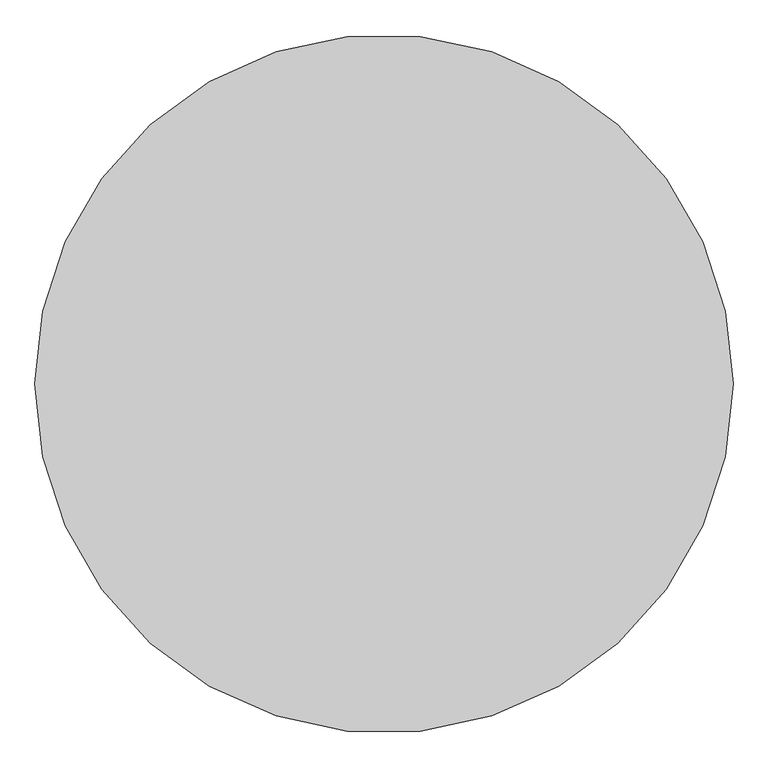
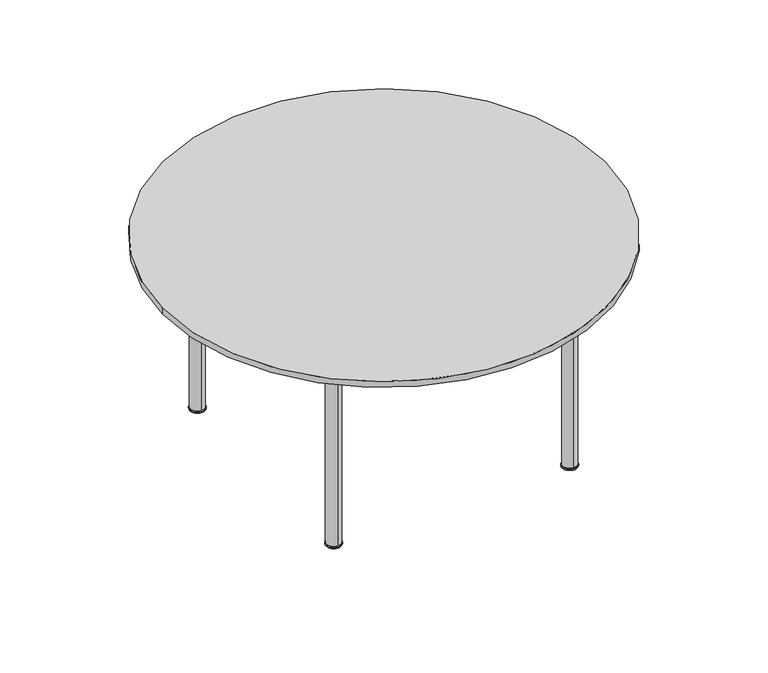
"""IFC4 building model written with IfcOpenShell, lengths in millimetres: furniture geometry, Fredericia - Plan Table - 6645 : Fredericia - Plan Table - 6645."""

from ifc_helpers import new_model, si_unit, point, frame, frame_2d, origin, origin_2d, place, context, project, spatial, polyline, circle_curve, ellipse_curve, trimmed, segment, composite_curve, outline, extrude, source, transform, mapped, element, save
from ifc_brep_helpers import plane_surface, cylinder_surface, revolved_surface, advanced_brep


def furniture_2b8ee67a(model_context):
    return source(origin(), model_context, "Body", "SolidModel", [
        advanced_brep(
        [(399.9965931, -397.0446057, 7.0064935), (399.9965931, -373.1194117, 7.0064935), (399.9965931, -420.9697997, 7.0064935), (399.9965931, -420.4697997, 0.0), (399.9965931, -373.6194117, 0.0), (399.9965931, -397.0446057, 0.0), (399.9965931, -423.4697997, 3.0), (399.9965931, -370.6194117, 3.0), (399.9965931, -423.4697997, 4.5064935), (399.9965931, -370.6194117, 4.5064935)],
        [
            (0, 1),
            (1, 2, circle_curve(frame((399.9965931, -397.0446057, 7.0064935), z_axis=(0.0, 0.0, 1.0), x_axis=(0.0, 1.0, 0.0)), 23.925194)),
            (2, 0),
            (2, 1, circle_curve(frame((399.9965931, -397.0446057, 7.0064935), z_axis=(0.0, 0.0, 1.0), x_axis=(0.0, 1.0, 0.0)), 23.925194)),
            (3, 4, circle_curve(frame((399.9965931, -397.0446057, 0.0), z_axis=(0.0, 0.0, -1.0), x_axis=(0.0, 1.0, 0.0)), 23.425194)),
            (4, 5),
            (5, 3),
            (4, 3, circle_curve(frame((399.9965931, -397.0446057, 0.0), z_axis=(0.0, 0.0, -1.0), x_axis=(0.0, 1.0, 0.0)), 23.425194)),
            (6, 7, circle_curve(frame((399.9965931, -397.0446057, 3.0), z_axis=(0.0, 0.0, -1.0), x_axis=(0.0, 1.0, 0.0)), 26.425194)),
            (7, 4, circle_curve(frame((399.9965931, -373.6194117, 3.0), z_axis=(-1.0, 0.0, 0.0), x_axis=(0.0, 1.0, 0.0)), 3.0)),
            (3, 6, circle_curve(frame((399.9965931, -420.4697997, 3.0), z_axis=(-1.0, 0.0, 0.0), x_axis=(0.0, -1.0, 0.0)), 3.0)),
            (7, 6, circle_curve(frame((399.9965931, -397.0446057, 3.0), z_axis=(0.0, 0.0, -1.0), x_axis=(0.0, 1.0, 0.0)), 26.425194)),
            (8, 9, circle_curve(frame((399.9965931, -397.0446057, 4.5064935), z_axis=(0.0, 0.0, -1.0), x_axis=(0.0, 1.0, 0.0)), 26.425194)),
            (9, 7),
            (6, 8),
            (9, 8, circle_curve(frame((399.9965931, -397.0446057, 4.5064935), z_axis=(0.0, 0.0, -1.0), x_axis=(0.0, 1.0, 0.0)), 26.425194)),
            (1, 9, circle_curve(frame((399.9965931, -373.1194117, 4.5064935), z_axis=(-1.0, 0.0, 0.0), x_axis=(0.0, 1.0, 0.0)), 2.5)),
            (8, 2, circle_curve(frame((399.9965931, -420.9697997, 4.5064935), z_axis=(-1.0, 0.0, 0.0), x_axis=(0.0, -1.0, 0.0)), 2.5)),
        ],
        [
            plane_surface(frame((399.9965931, -397.0446057, 7.0064935), z_axis=(0.0, 0.0, 1.0), x_axis=(0.0, 1.0, 0.0))),
            plane_surface(frame((399.9965931, -397.0446057, 0.0), z_axis=(0.0, 0.0, -1.0), x_axis=(0.0, 1.0, 0.0))),
            revolved_surface(trimmed(ellipse_curve(frame((399.9965931, -373.6194117, 3.0), z_axis=(1.0, 0.0, 0.0), x_axis=(0.0, 1.0, 0.0)), 3.0, 3.0), [point((399.9965931, -373.6194117, 0.0))], [point((399.9965931, -370.6194117, 3.0))], True, "CARTESIAN"), (399.9965931, -397.0446057, 7.0064935), (0.0, 0.0, 1.0)),
            cylinder_surface(frame((399.9965931, -397.0446057, 7.0064935), z_axis=(0.0, 0.0, 1.0), x_axis=(0.0, 1.0, 0.0)), 26.425194),
            revolved_surface(trimmed(ellipse_curve(frame((399.9965931, -373.1194117, 4.5064935), z_axis=(1.0, 0.0, 0.0), x_axis=(0.0, 1.0, 0.0)), 2.5, 2.5), [point((399.9965931, -370.6194117, 4.5064935))], [point((399.9965931, -373.1194117, 7.0064935))], True, "CARTESIAN"), (399.9965931, -397.0446057, 7.0064935), (0.0, 0.0, 1.0)),
        ],
        [
            (0, [[1, 2, 3]]),
            (0, [[-3, 4, -1]]),
            (1, [[5, 6, 7]]),
            (1, [[8, -7, -6]]),
            (2, [[9, 10, -5, 11]]),
            (2, [[12, -11, -8, -10]]),
            (3, [[13, 14, -9, 15]]),
            (3, [[16, -15, -12, -14]]),
            (4, [[-2, 17, -13, 18]]),
            (4, [[-4, -18, -16, -17]]),
        ],
    ),
        extrude(outline(composite_curve([segment(trimmed(circle_curve(frame_2d((400.0, -397.0446057)), 24.0), [point((400.0, -421.0446057))], [point((400.0, -373.0446057))], False, "CARTESIAN"), True, "CONTINUOUS"), segment(trimmed(circle_curve(frame_2d((400.0, -397.0446057)), 24.0), [point((400.0, -373.0446057))], [point((400.0, -421.0446057))], False, "CARTESIAN"), True, "CONTINUOUS")], self_intersect=False)), frame((0.0, 0.0, 7.0064935), z_axis=(0.0, 0.0, 1.0), x_axis=(1.0, 0.0, 0.0)), (0.0, 0.0, 1.0), 697.2),
        advanced_brep(
        [(-400.0, -420.9697997, 7.0064935), (-400.0, -373.1194117, 7.0064935), (-400.0, -397.0446057, 7.0064935), (-400.0, -397.0446057, 0.0), (-400.0, -373.6194117, 0.0), (-400.0, -420.4697997, 0.0), (-400.0, -370.6194117, 3.0), (-400.0, -423.4697997, 3.0), (-400.0, -370.6194117, 4.5064935), (-400.0, -423.4697997, 4.5064935)],
        [
            (0, 1, circle_curve(frame((-400.0, -397.0446057, 7.0064935), z_axis=(0.0, 0.0, 1.0), x_axis=(0.0, 1.0, 0.0)), 23.925194)),
            (1, 2),
            (2, 0),
            (1, 0, circle_curve(frame((-400.0, -397.0446057, 7.0064935), z_axis=(0.0, 0.0, 1.0), x_axis=(0.0, 1.0, 0.0)), 23.925194)),
            (3, 4),
            (4, 5, circle_curve(frame((-400.0, -397.0446057, 0.0), z_axis=(0.0, 0.0, -1.0), x_axis=(0.0, 1.0, 0.0)), 23.425194)),
            (5, 3),
            (5, 4, circle_curve(frame((-400.0, -397.0446057, 0.0), z_axis=(0.0, 0.0, -1.0), x_axis=(0.0, 1.0, 0.0)), 23.425194)),
            (4, 6, circle_curve(frame((-400.0, -373.6194117, 3.0), z_axis=(1.0, 0.0, 0.0), x_axis=(0.0, 1.0, 0.0)), 3.0)),
            (6, 7, circle_curve(frame((-400.0, -397.0446057, 3.0), z_axis=(0.0, 0.0, -1.0), x_axis=(0.0, 1.0, 0.0)), 26.425194)),
            (7, 5, circle_curve(frame((-400.0, -420.4697997, 3.0), z_axis=(1.0, 0.0, 0.0), x_axis=(0.0, -1.0, 0.0)), 3.0)),
            (7, 6, circle_curve(frame((-400.0, -397.0446057, 3.0), z_axis=(0.0, 0.0, -1.0), x_axis=(0.0, 1.0, 0.0)), 26.425194)),
            (6, 8),
            (8, 9, circle_curve(frame((-400.0, -397.0446057, 4.5064935), z_axis=(0.0, 0.0, -1.0), x_axis=(0.0, 1.0, 0.0)), 26.425194)),
            (9, 7),
            (9, 8, circle_curve(frame((-400.0, -397.0446057, 4.5064935), z_axis=(0.0, 0.0, -1.0), x_axis=(0.0, 1.0, 0.0)), 26.425194)),
            (8, 1, circle_curve(frame((-400.0, -373.1194117, 4.5064935), z_axis=(1.0, 0.0, 0.0), x_axis=(0.0, 1.0, 0.0)), 2.5)),
            (0, 9, circle_curve(frame((-400.0, -420.9697997, 4.5064935), z_axis=(1.0, 0.0, 0.0), x_axis=(0.0, -1.0, 0.0)), 2.5)),
        ],
        [
            plane_surface(frame((-400.0, -397.0446057, 7.0064935), z_axis=(0.0, 0.0, 1.0), x_axis=(0.0, 1.0, 0.0))),
            plane_surface(frame((-400.0, -397.0446057, 0.0), z_axis=(0.0, 0.0, -1.0), x_axis=(0.0, 1.0, 0.0))),
            revolved_surface(trimmed(ellipse_curve(frame((-400.0, -373.6194117, 3.0), z_axis=(-1.0, 0.0, 0.0), x_axis=(0.0, 1.0, 0.0)), 3.0, 3.0), [point((-400.0, -370.6194117, 3.0))], [point((-400.0, -373.6194117, 0.0))], True, "CARTESIAN"), (-400.0, -397.0446057, 7.0064935), (0.0, 0.0, -1.0)),
            cylinder_surface(frame((-400.0, -397.0446057, 7.0064935), z_axis=(0.0, 0.0, -1.0), x_axis=(0.0, 1.0, 0.0)), 26.425194),
            revolved_surface(trimmed(ellipse_curve(frame((-400.0, -373.1194117, 4.5064935), z_axis=(-1.0, 0.0, 0.0), x_axis=(0.0, 1.0, 0.0)), 2.5, 2.5), [point((-400.0, -373.1194117, 7.0064935))], [point((-400.0, -370.6194117, 4.5064935))], True, "CARTESIAN"), (-400.0, -397.0446057, 7.0064935), (0.0, 0.0, -1.0)),
        ],
        [
            (0, [[1, 2, 3]]),
            (0, [[4, -3, -2]]),
            (1, [[5, 6, 7]]),
            (1, [[-7, 8, -5]]),
            (2, [[-6, 9, 10, 11]]),
            (2, [[-8, -11, 12, -9]]),
            (3, [[-10, 13, 14, 15]]),
            (3, [[-12, -15, 16, -13]]),
            (4, [[-14, 17, -1, 18]]),
            (4, [[-16, -18, -4, -17]]),
        ],
    ),
        extrude(outline(composite_curve([segment(trimmed(circle_curve(frame_2d((-400.0034069, -397.0446057)), 24.0), [point((-400.0034069, -421.0446057))], [point((-400.0034069, -373.0446057))], False, "CARTESIAN"), True, "CONTINUOUS"), segment(trimmed(circle_curve(frame_2d((-400.0034069, -397.0446057)), 24.0), [point((-400.0034069, -373.0446057))], [point((-400.0034069, -421.0446057))], False, "CARTESIAN"), True, "CONTINUOUS")], self_intersect=False)), frame((0.0, 0.0, 7.0064935), z_axis=(0.0, 0.0, 1.0), x_axis=(1.0, 0.0, 0.0)), (0.0, 0.0, 1.0), 697.2),
        extrude(outline(composite_curve([segment(polyline([(-384.5694626, 691.7064935), (-384.5694626, 664.4807411)]), True, "CONTINUOUS"), segment(trimmed(circle_curve(frame_2d((-397.0694626, 664.4807411)), 12.5), [point((-384.5694626, 664.4807411))], [point((-409.5694626, 664.4807411))], False, "CARTESIAN"), True, "CONTINUOUS"), segment(polyline([(-409.5694626, 664.4807411), (-409.5694626, 691.7064935)]), True, "CONTINUOUS"), segment(trimmed(circle_curve(frame_2d((-397.0694626, 691.7064935)), 12.5), [point((-409.5694626, 691.7064935))], [point((-384.5694626, 691.7064935))], False, "CARTESIAN"), True, "CONTINUOUS")], self_intersect=False)), frame((-382.5, 0.0, 0.0), z_axis=(1.0, 0.0, 0.0), x_axis=(0.0, 1.0, 0.0)), (0.0, 0.0, 1.0), 766.1194551),
        advanced_brep(
        [(399.9965931, 426.8805883, 7.0064935), (399.9965931, 379.0302003, 7.0064935), (399.9965931, 402.9553943, 7.0064935), (399.9965931, 402.9553943, 0.0), (399.9965931, 379.5302003, 0.0), (399.9965931, 426.3805883, 0.0), (399.9965931, 376.5302003, 3.0), (399.9965931, 429.3805883, 3.0), (399.9965931, 376.5302003, 4.5064935), (399.9965931, 429.3805883, 4.5064935)],
        [
            (0, 1, circle_curve(frame((399.9965931, 402.9553943, 7.0064935), z_axis=(0.0, 0.0, 1.0), x_axis=(0.0, -1.0, 0.0)), 23.925194)),
            (1, 2),
            (2, 0),
            (1, 0, circle_curve(frame((399.9965931, 402.9553943, 7.0064935), z_axis=(0.0, 0.0, 1.0), x_axis=(0.0, -1.0, 0.0)), 23.925194)),
            (3, 4),
            (4, 5, circle_curve(frame((399.9965931, 402.9553943, 0.0), z_axis=(0.0, 0.0, -1.0), x_axis=(0.0, -1.0, 0.0)), 23.425194)),
            (5, 3),
            (5, 4, circle_curve(frame((399.9965931, 402.9553943, 0.0), z_axis=(0.0, 0.0, -1.0), x_axis=(0.0, -1.0, 0.0)), 23.425194)),
            (4, 6, circle_curve(frame((399.9965931, 379.5302003, 3.0), z_axis=(-1.0, 0.0, 0.0), x_axis=(0.0, -1.0, 0.0)), 3.0)),
            (6, 7, circle_curve(frame((399.9965931, 402.9553943, 3.0), z_axis=(0.0, 0.0, -1.0), x_axis=(0.0, -1.0, 0.0)), 26.425194)),
            (7, 5, circle_curve(frame((399.9965931, 426.3805883, 3.0), z_axis=(-1.0, 0.0, 0.0), x_axis=(0.0, 1.0, 0.0)), 3.0)),
            (7, 6, circle_curve(frame((399.9965931, 402.9553943, 3.0), z_axis=(0.0, 0.0, -1.0), x_axis=(0.0, -1.0, 0.0)), 26.425194)),
            (6, 8),
            (8, 9, circle_curve(frame((399.9965931, 402.9553943, 4.5064935), z_axis=(0.0, 0.0, -1.0), x_axis=(0.0, -1.0, 0.0)), 26.425194)),
            (9, 7),
            (9, 8, circle_curve(frame((399.9965931, 402.9553943, 4.5064935), z_axis=(0.0, 0.0, -1.0), x_axis=(0.0, -1.0, 0.0)), 26.425194)),
            (8, 1, circle_curve(frame((399.9965931, 379.0302003, 4.5064935), z_axis=(-1.0, 0.0, 0.0), x_axis=(0.0, -1.0, 0.0)), 2.5)),
            (0, 9, circle_curve(frame((399.9965931, 426.8805883, 4.5064935), z_axis=(-1.0, 0.0, 0.0), x_axis=(0.0, 1.0, 0.0)), 2.5)),
        ],
        [
            plane_surface(frame((399.9965931, 402.9553943, 7.0064935), z_axis=(0.0, 0.0, 1.0), x_axis=(0.0, -1.0, 0.0))),
            plane_surface(frame((399.9965931, 402.9553943, 0.0), z_axis=(0.0, 0.0, -1.0), x_axis=(0.0, -1.0, 0.0))),
            revolved_surface(trimmed(ellipse_curve(frame((399.9965931, 379.5302003, 3.0), z_axis=(1.0, 0.0, 0.0), x_axis=(0.0, -1.0, 0.0)), 3.0, 3.0), [point((399.9965931, 376.5302003, 3.0))], [point((399.9965931, 379.5302003, 0.0))], True, "CARTESIAN"), (399.9965931, 402.9553943, 7.0064935), (0.0, 0.0, -1.0)),
            cylinder_surface(frame((399.9965931, 402.9553943, 7.0064935), z_axis=(0.0, 0.0, -1.0), x_axis=(0.0, -1.0, 0.0)), 26.425194),
            revolved_surface(trimmed(ellipse_curve(frame((399.9965931, 379.0302003, 4.5064935), z_axis=(1.0, 0.0, 0.0), x_axis=(0.0, -1.0, 0.0)), 2.5, 2.5), [point((399.9965931, 379.0302003, 7.0064935))], [point((399.9965931, 376.5302003, 4.5064935))], True, "CARTESIAN"), (399.9965931, 402.9553943, 7.0064935), (0.0, 0.0, -1.0)),
        ],
        [
            (0, [[1, 2, 3]]),
            (0, [[4, -3, -2]]),
            (1, [[5, 6, 7]]),
            (1, [[-7, 8, -5]]),
            (2, [[-6, 9, 10, 11]]),
            (2, [[-8, -11, 12, -9]]),
            (3, [[-10, 13, 14, 15]]),
            (3, [[-12, -15, 16, -13]]),
            (4, [[-14, 17, -1, 18]]),
            (4, [[-16, -18, -4, -17]]),
        ],
    ),
        extrude(outline(composite_curve([segment(trimmed(circle_curve(frame_2d((400.0, 402.9553943)), 24.0), [point((400.0, 426.9553943))], [point((400.0, 378.9553943))], False, "CARTESIAN"), True, "CONTINUOUS"), segment(trimmed(circle_curve(frame_2d((400.0, 402.9553943)), 24.0), [point((400.0, 378.9553943))], [point((400.0, 426.9553943))], False, "CARTESIAN"), True, "CONTINUOUS")], self_intersect=False)), frame((0.0, 0.0, 7.0064935), z_axis=(0.0, 0.0, 1.0), x_axis=(1.0, 0.0, 0.0)), (0.0, 0.0, 1.0), 697.2),
        advanced_brep(
        [(-400.0, 402.9553943, 7.0064935), (-400.0, 379.0302003, 7.0064935), (-400.0, 426.8805883, 7.0064935), (-400.0, 426.3805883, 0.0), (-400.0, 379.5302003, 0.0), (-400.0, 402.9553943, 0.0), (-400.0, 429.3805883, 3.0), (-400.0, 376.5302003, 3.0), (-400.0, 429.3805883, 4.5064935), (-400.0, 376.5302003, 4.5064935)],
        [
            (0, 1),
            (1, 2, circle_curve(frame((-400.0, 402.9553943, 7.0064935), z_axis=(0.0, 0.0, 1.0), x_axis=(0.0, -1.0, 0.0)), 23.925194)),
            (2, 0),
            (2, 1, circle_curve(frame((-400.0, 402.9553943, 7.0064935), z_axis=(0.0, 0.0, 1.0), x_axis=(0.0, -1.0, 0.0)), 23.925194)),
            (3, 4, circle_curve(frame((-400.0, 402.9553943, 0.0), z_axis=(0.0, 0.0, -1.0), x_axis=(0.0, -1.0, 0.0)), 23.425194)),
            (4, 5),
            (5, 3),
            (4, 3, circle_curve(frame((-400.0, 402.9553943, 0.0), z_axis=(0.0, 0.0, -1.0), x_axis=(0.0, -1.0, 0.0)), 23.425194)),
            (6, 7, circle_curve(frame((-400.0, 402.9553943, 3.0), z_axis=(0.0, 0.0, -1.0), x_axis=(0.0, -1.0, 0.0)), 26.425194)),
            (7, 4, circle_curve(frame((-400.0, 379.5302003, 3.0), z_axis=(1.0, 0.0, 0.0), x_axis=(0.0, -1.0, 0.0)), 3.0)),
            (3, 6, circle_curve(frame((-400.0, 426.3805883, 3.0), z_axis=(1.0, 0.0, 0.0), x_axis=(0.0, 1.0, 0.0)), 3.0)),
            (7, 6, circle_curve(frame((-400.0, 402.9553943, 3.0), z_axis=(0.0, 0.0, -1.0), x_axis=(0.0, -1.0, 0.0)), 26.425194)),
            (8, 9, circle_curve(frame((-400.0, 402.9553943, 4.5064935), z_axis=(0.0, 0.0, -1.0), x_axis=(0.0, -1.0, 0.0)), 26.425194)),
            (9, 7),
            (6, 8),
            (9, 8, circle_curve(frame((-400.0, 402.9553943, 4.5064935), z_axis=(0.0, 0.0, -1.0), x_axis=(0.0, -1.0, 0.0)), 26.425194)),
            (1, 9, circle_curve(frame((-400.0, 379.0302003, 4.5064935), z_axis=(1.0, 0.0, 0.0), x_axis=(0.0, -1.0, 0.0)), 2.5)),
            (8, 2, circle_curve(frame((-400.0, 426.8805883, 4.5064935), z_axis=(1.0, 0.0, 0.0), x_axis=(0.0, 1.0, 0.0)), 2.5)),
        ],
        [
            plane_surface(frame((-400.0, 402.9553943, 7.0064935), z_axis=(0.0, 0.0, 1.0), x_axis=(0.0, -1.0, 0.0))),
            plane_surface(frame((-400.0, 402.9553943, 0.0), z_axis=(0.0, 0.0, -1.0), x_axis=(0.0, -1.0, 0.0))),
            revolved_surface(trimmed(ellipse_curve(frame((-400.0, 379.5302003, 3.0), z_axis=(-1.0, 0.0, 0.0), x_axis=(0.0, -1.0, 0.0)), 3.0, 3.0), [point((-400.0, 379.5302003, 0.0))], [point((-400.0, 376.5302003, 3.0))], True, "CARTESIAN"), (-400.0, 402.9553943, 7.0064935), (0.0, 0.0, 1.0)),
            cylinder_surface(frame((-400.0, 402.9553943, 7.0064935), z_axis=(0.0, 0.0, 1.0), x_axis=(0.0, -1.0, 0.0)), 26.425194),
            revolved_surface(trimmed(ellipse_curve(frame((-400.0, 379.0302003, 4.5064935), z_axis=(-1.0, 0.0, 0.0), x_axis=(0.0, -1.0, 0.0)), 2.5, 2.5), [point((-400.0, 376.5302003, 4.5064935))], [point((-400.0, 379.0302003, 7.0064935))], True, "CARTESIAN"), (-400.0, 402.9553943, 7.0064935), (0.0, 0.0, 1.0)),
        ],
        [
            (0, [[1, 2, 3]]),
            (0, [[-3, 4, -1]]),
            (1, [[5, 6, 7]]),
            (1, [[8, -7, -6]]),
            (2, [[9, 10, -5, 11]]),
            (2, [[12, -11, -8, -10]]),
            (3, [[13, 14, -9, 15]]),
            (3, [[16, -15, -12, -14]]),
            (4, [[-2, 17, -13, 18]]),
            (4, [[-4, -18, -16, -17]]),
        ],
    ),
        extrude(outline(composite_curve([segment(trimmed(circle_curve(frame_2d((-400.0034069, 402.9553943)), 24.0), [point((-400.0034069, 426.9553943))], [point((-400.0034069, 378.9553943))], False, "CARTESIAN"), True, "CONTINUOUS"), segment(trimmed(circle_curve(frame_2d((-400.0034069, 402.9553943)), 24.0), [point((-400.0034069, 378.9553943))], [point((-400.0034069, 426.9553943))], False, "CARTESIAN"), True, "CONTINUOUS")], self_intersect=False)), frame((0.0, 0.0, 7.0064935), z_axis=(0.0, 0.0, 1.0), x_axis=(1.0, 0.0, 0.0)), (0.0, 0.0, 1.0), 697.2),
        extrude(outline(composite_curve([segment(trimmed(circle_curve(frame_2d((402.9802512, 691.7064935)), 12.5), [point((390.4802512, 691.7064935))], [point((415.4802512, 691.7064935))], False, "CARTESIAN"), True, "CONTINUOUS"), segment(polyline([(415.4802512, 691.7064935), (415.4802512, 664.4807411)]), True, "CONTINUOUS"), segment(trimmed(circle_curve(frame_2d((402.9802512, 664.4807411)), 12.5), [point((415.4802512, 664.4807411))], [point((390.4802512, 664.4807411))], False, "CARTESIAN"), True, "CONTINUOUS"), segment(polyline([(390.4802512, 664.4807411), (390.4802512, 691.7064935)]), True, "CONTINUOUS")], self_intersect=False)), frame((-382.5, 0.0, 0.0), z_axis=(1.0, 0.0, 0.0), x_axis=(0.0, 1.0, 0.0)), (0.0, 0.0, 1.0), 766.1194551),
        extrude(outline(composite_curve([segment(polyline([(691.7064935, 387.5), (664.4807411, 387.5)]), True, "CONTINUOUS"), segment(trimmed(circle_curve(frame_2d((664.4807411, 400.0)), 12.5), [point((664.4807411, 387.5))], [point((664.4807411, 412.5))], False, "CARTESIAN"), True, "CONTINUOUS"), segment(polyline([(664.4807411, 412.5), (691.7064935, 412.5)]), True, "CONTINUOUS"), segment(trimmed(circle_curve(frame_2d((691.7064935, 400.0)), 12.5), [point((691.7064935, 412.5))], [point((691.7064935, 387.5))], False, "CARTESIAN"), True, "CONTINUOUS")], self_intersect=False)), frame((0.0, -376.5568045, 0.0), z_axis=(0.0, 1.0, 0.0), x_axis=(0.0, 0.0, 1.0)), (0.0, 0.0, 1.0), 759.3784722),
        extrude(outline(composite_curve([segment(trimmed(circle_curve(frame_2d((691.7064935, -400.0)), 12.5), [point((691.7064935, -387.5))], [point((691.7064935, -412.5))], False, "CARTESIAN"), True, "CONTINUOUS"), segment(polyline([(691.7064935, -412.5), (664.4807411, -412.5)]), True, "CONTINUOUS"), segment(trimmed(circle_curve(frame_2d((664.4807411, -400.0)), 12.5), [point((664.4807411, -412.5))], [point((664.4807411, -387.5))], False, "CARTESIAN"), True, "CONTINUOUS"), segment(polyline([(664.4807411, -387.5), (691.7064935, -387.5)]), True, "CONTINUOUS")], self_intersect=False)), frame((0.0, -376.5568045, 0.0), z_axis=(0.0, 1.0, 0.0), x_axis=(0.0, 0.0, 1.0)), (0.0, 0.0, 1.0), 759.3784722),
        extrude(outline(composite_curve([segment(trimmed(circle_curve(origin_2d(), 750.0), [point((-750.0, 0.0))], [point((750.0, 0.0))], False, "CARTESIAN"), True, "CONTINUOUS"), segment(trimmed(circle_curve(origin_2d(), 750.0), [point((750.0, 0.0))], [point((-750.0, 0.0))], False, "CARTESIAN"), True, "CONTINUOUS")], self_intersect=False)), frame((0.0, 0.0, 704.2064935), z_axis=(0.0, 0.0, 1.0), x_axis=(1.0, 0.0, 0.0)), (0.0, 0.0, 1.0), 20.8),
    ])


if __name__ == "__main__":
    model = new_model("IFC4")
    model_context = context("Model", 3, world=origin())
    ifc_project = project(units=[si_unit("LENGTHUNIT", "METRE", prefix="MILLI")], contexts=[model_context])
    site = spatial("IfcSite", under=ifc_project)
    building = spatial("IfcBuilding", under=site)
    placement = place(None, origin())
    furniture_shape = furniture_2b8ee67a(model_context)
    element("IfcFurniture", 1, ObjectType="Fredericia - Plan Table - 6645 : Fredericia - Plan Table - 6645", at=placement, inside=building, context=model_context, shape_type="MappedRepresentation", body=[
        mapped(furniture_shape, transform((0.0, 0.0, 0.0), x_axis=(1.0, 0.0, 0.0), y_axis=(0.0, 1.0, 0.0), z_axis=(0.0, 0.0, 1.0))),
    ])
    save(model, "model.ifc")
